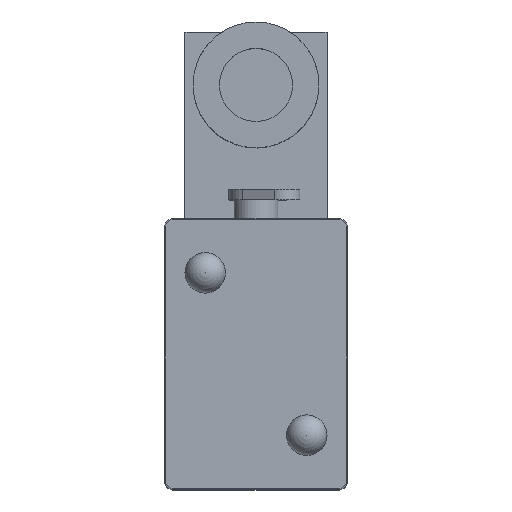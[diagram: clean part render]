
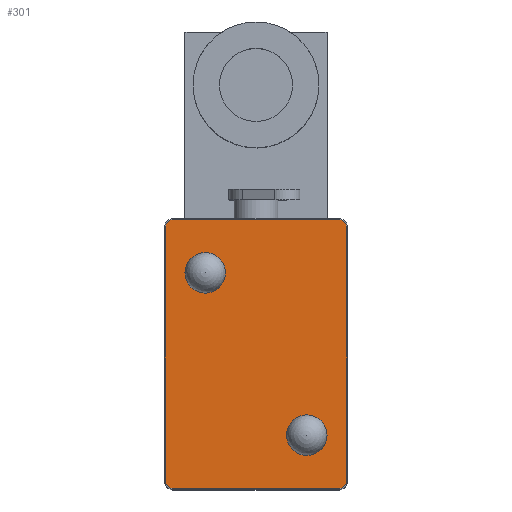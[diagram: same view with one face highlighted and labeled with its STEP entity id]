
A CAD part, top view. The second image highlights one B-rep face of the part: STEP entity #301.
In plain terms, the highlighted planar face has unit normal (0, 0, 1).
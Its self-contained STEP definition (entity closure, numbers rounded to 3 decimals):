
#301 = ADVANCED_FACE( '', ( #644, #645, #646 ), #647, .T. );
#644 = FACE_BOUND( '', #1001, .T. );
#645 = FACE_BOUND( '', #1002, .T. );
#646 = FACE_OUTER_BOUND( '', #1003, .T. );
#647 = PLANE( '', #1004 );
#1001 = EDGE_LOOP( '', ( #1716 ) );
#1002 = EDGE_LOOP( '', ( #1717 ) );
#1003 = EDGE_LOOP( '', ( #1718, #1719, #1720, #1721, #1722, #1723, #1724, #1725 ) );
#1004 = AXIS2_PLACEMENT_3D( '', #1726, #1727, #1728 );
#1716 = ORIENTED_EDGE( '', *, *, #2147, .T. );
#1717 = ORIENTED_EDGE( '', *, *, #2148, .T. );
#1718 = ORIENTED_EDGE( '', *, *, #1914, .T. );
#1719 = ORIENTED_EDGE( '', *, *, #2078, .T. );
#1720 = ORIENTED_EDGE( '', *, *, #2068, .T. );
#1721 = ORIENTED_EDGE( '', *, *, #1879, .T. );
#1722 = ORIENTED_EDGE( '', *, *, #2120, .T. );
#1723 = ORIENTED_EDGE( '', *, *, #2127, .T. );
#1724 = ORIENTED_EDGE( '', *, *, #1995, .T. );
#1725 = ORIENTED_EDGE( '', *, *, #2149, .T. );
#1726 = CARTESIAN_POINT( '', ( -12.2, 18.7, 11.6 ) );
#1727 = DIRECTION( '', ( 0., 0., 1. ) );
#1728 = DIRECTION( '', ( 1., 0., 0. ) );
#1879 = EDGE_CURVE( '', #2197, #2195, #2198, .T. );
#1914 = EDGE_CURVE( '', #2254, #2252, #2255, .T. );
#1995 = EDGE_CURVE( '', #2385, #2383, #2386, .T. );
#2068 = EDGE_CURVE( '', #2496, #2197, #2497, .T. );
#2078 = EDGE_CURVE( '', #2252, #2496, #2510, .T. );
#2120 = EDGE_CURVE( '', #2195, #2559, #2561, .T. );
#2127 = EDGE_CURVE( '', #2559, #2385, #2569, .T. );
#2147 = EDGE_CURVE( '', #2592, #2592, #2593, .T. );
#2148 = EDGE_CURVE( '', #2594, #2594, #2595, .T. );
#2149 = EDGE_CURVE( '', #2383, #2254, #2596, .T. );
#2195 = VERTEX_POINT( '', #2652 );
#2197 = VERTEX_POINT( '', #2655 );
#2198 = LINE( '', #2656, #2657 );
#2252 = VERTEX_POINT( '', #2779 );
#2254 = VERTEX_POINT( '', #2782 );
#2255 = CIRCLE( '', #2783, 1.2 );
#2383 = VERTEX_POINT( '', #2970 );
#2385 = VERTEX_POINT( '', #2973 );
#2386 = CIRCLE( '', #2974, 1.2 );
#2496 = VERTEX_POINT( '', #3180 );
#2497 = CIRCLE( '', #3181, 1.2 );
#2510 = LINE( '', #3197, #3198 );
#2559 = VERTEX_POINT( '', #3262 );
#2561 = CIRCLE( '', #3265, 1.2 );
#2569 = LINE( '', #3276, #3277 );
#2592 = VERTEX_POINT( '', #3308 );
#2593 = CIRCLE( '', #3309, 3. );
#2594 = VERTEX_POINT( '', #3310 );
#2595 = CIRCLE( '', #3311, 3. );
#2596 = LINE( '', #3312, #3313 );
#2652 = CARTESIAN_POINT( '', ( 12.2, -19.9, 11.6 ) );
#2655 = CARTESIAN_POINT( '', ( -12.2, -19.9, 11.6 ) );
#2656 = CARTESIAN_POINT( '', ( -12.2, -19.9, 11.6 ) );
#2657 = VECTOR( '', #3352, 1000. );
#2779 = CARTESIAN_POINT( '', ( -13.4, 18.7, 11.6 ) );
#2782 = CARTESIAN_POINT( '', ( -12.2, 19.9, 11.6 ) );
#2783 = AXIS2_PLACEMENT_3D( '', #3408, #3409, #3410 );
#2970 = CARTESIAN_POINT( '', ( 12.2, 19.9, 11.6 ) );
#2973 = CARTESIAN_POINT( '', ( 13.4, 18.7, 11.6 ) );
#2974 = AXIS2_PLACEMENT_3D( '', #3510, #3511, #3512 );
#3180 = CARTESIAN_POINT( '', ( -13.4, -18.7, 11.6 ) );
#3181 = AXIS2_PLACEMENT_3D( '', #3604, #3605, #3606 );
#3197 = CARTESIAN_POINT( '', ( -13.4, 18.7, 11.6 ) );
#3198 = VECTOR( '', #3619, 1000. );
#3262 = CARTESIAN_POINT( '', ( 13.4, -18.7, 11.6 ) );
#3265 = AXIS2_PLACEMENT_3D( '', #3663, #3664, #3665 );
#3276 = CARTESIAN_POINT( '', ( 13.4, -18.7, 11.6 ) );
#3277 = VECTOR( '', #3669, 1000. );
#3308 = CARTESIAN_POINT( '', ( 4.5, -12., 11.6 ) );
#3309 = AXIS2_PLACEMENT_3D( '', #3684, #3685, #3686 );
#3310 = CARTESIAN_POINT( '', ( -10.5, 12., 11.6 ) );
#3311 = AXIS2_PLACEMENT_3D( '', #3687, #3688, #3689 );
#3312 = CARTESIAN_POINT( '', ( 12.2, 19.9, 11.6 ) );
#3313 = VECTOR( '', #3690, 1000. );
#3352 = DIRECTION( '', ( 1., 0., 0. ) );
#3408 = CARTESIAN_POINT( '', ( -12.2, 18.7, 11.6 ) );
#3409 = DIRECTION( '', ( 0., 0., 1. ) );
#3410 = DIRECTION( '', ( 1., 0., 0. ) );
#3510 = CARTESIAN_POINT( '', ( 12.2, 18.7, 11.6 ) );
#3511 = DIRECTION( '', ( 0., 0., 1. ) );
#3512 = DIRECTION( '', ( 1., 0., 0. ) );
#3604 = CARTESIAN_POINT( '', ( -12.2, -18.7, 11.6 ) );
#3605 = DIRECTION( '', ( 0., 0., 1. ) );
#3606 = DIRECTION( '', ( 1., 0., 0. ) );
#3619 = DIRECTION( '', ( 0., -1., 0. ) );
#3663 = CARTESIAN_POINT( '', ( 12.2, -18.7, 11.6 ) );
#3664 = DIRECTION( '', ( 0., 0., 1. ) );
#3665 = DIRECTION( '', ( 1., 0., 0. ) );
#3669 = DIRECTION( '', ( 0., 1., 0. ) );
#3684 = CARTESIAN_POINT( '', ( 7.5, -12., 11.6 ) );
#3685 = DIRECTION( '', ( 0., 0., -1. ) );
#3686 = DIRECTION( '', ( -1., 0., 0. ) );
#3687 = CARTESIAN_POINT( '', ( -7.5, 12., 11.6 ) );
#3688 = DIRECTION( '', ( 0., 0., -1. ) );
#3689 = DIRECTION( '', ( -1., 0., 0. ) );
#3690 = DIRECTION( '', ( -1., 0., 0. ) );
